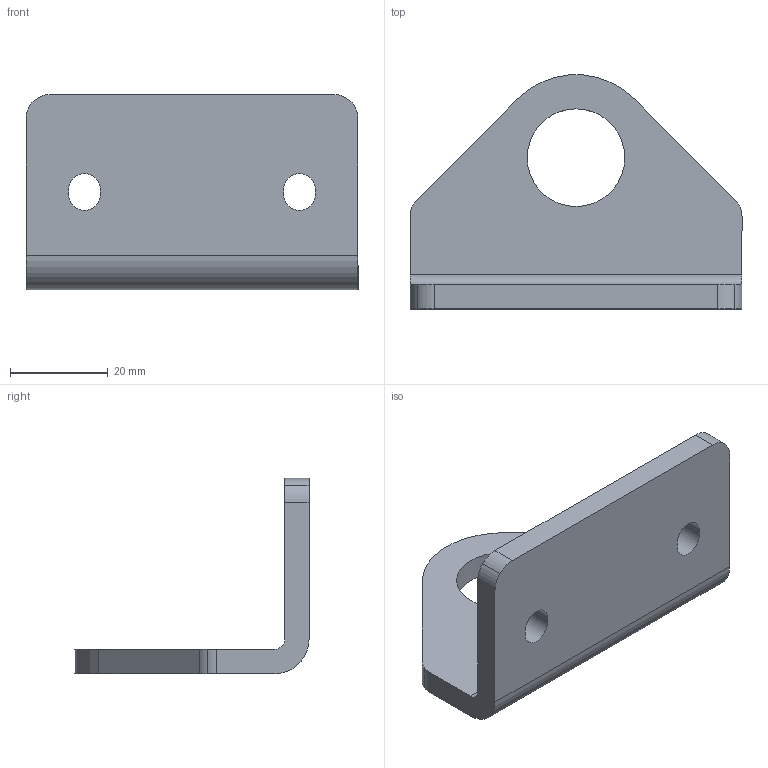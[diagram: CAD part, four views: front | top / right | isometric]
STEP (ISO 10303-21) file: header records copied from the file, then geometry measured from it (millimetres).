
FILE_DESCRIPTION((''),'2;1');
FILE_NAME('C:\DATA\VÝKRESY 2004\UPÍNKY\800 061\800 061.stp','2005-09-28T11:34:40',('Kysilko'),(''),'Autodesk Inventor 8','Autodesk Inventor 8','');
FILE_SCHEMA(('AUTOMOTIVE_DESIGN { 1 0 10303 214 1 1 1 1 }'));
Length unit declared in the file: millimetre
Products named in the file (1): Part6
Bounding box: 68 x 47.94 x 40 mm (x, y, z)
Volume: 21840.9 mm3; surface area: 10576.4 mm2
Topology: 1 solids, 1 shells, 30 faces, 84 edges, 56 vertices
Faces by surface type: cylinder 15, plane 13, bspline 2
Entity records: 1043 total; most frequent: CARTESIAN_POINT 205, DIRECTION 176, ORIENTED_EDGE 168, EDGE_CURVE 84, AXIS2_PLACEMENT_3D 63, VERTEX_POINT 56, VECTOR 50, LINE 50
